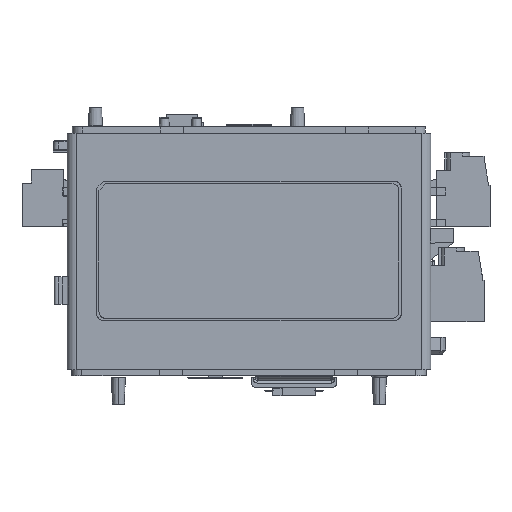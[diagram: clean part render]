
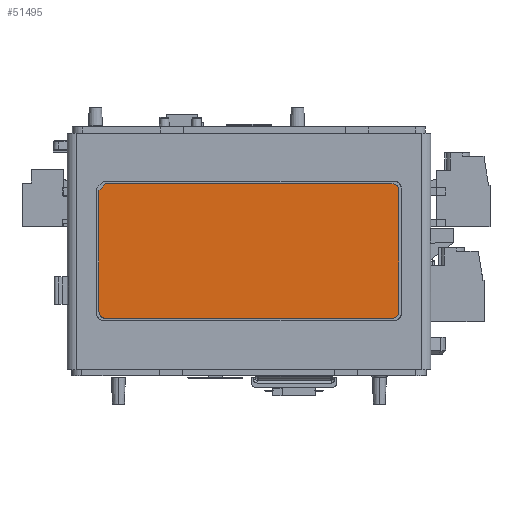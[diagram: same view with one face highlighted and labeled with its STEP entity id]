
A CAD part, left-side view. The second image highlights one B-rep face of the part: STEP entity #51495.
In plain terms, the highlighted planar face has unit normal (-1, 0, 0).
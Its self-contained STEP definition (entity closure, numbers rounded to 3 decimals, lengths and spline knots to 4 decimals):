
#51411=DIRECTION('',(0.,1.,0.));
#51412=VECTOR('',#51411,2.4409);
#51413=CARTESIAN_POINT('',(-1.7638,0.3307,
0.4921));
#51414=LINE('',#51413,#51412);
#51415=CARTESIAN_POINT('',(-1.7638,2.7717,
0.4921));
#51416=CARTESIAN_POINT('',(-1.7638,2.7781,
0.4922));
#51417=CARTESIAN_POINT('',(-1.7638,2.7902,
0.4941));
#51418=CARTESIAN_POINT('',(-1.7638,2.807,
0.5027));
#51419=CARTESIAN_POINT('',(-1.7638,2.8202,
0.5158));
#51420=CARTESIAN_POINT('',(-1.7638,2.8288,
0.5326));
#51421=CARTESIAN_POINT('',(-1.7638,2.8307,
0.5448));
#51422=CARTESIAN_POINT('',(-1.7638,2.8307,
0.5512));
#51424=DIRECTION('',(0.,0.,1.));
#51425=VECTOR('',#51424,1.0315);
#51426=CARTESIAN_POINT('',(-1.7638,2.8307,
0.5512));
#51427=LINE('',#51426,#51425);
#51428=DIRECTION('',(0.,-0.707,0.707));
#51429=VECTOR('',#51428,0.0835);
#51430=CARTESIAN_POINT('',(-1.7638,2.8307,
1.5827));
#51431=LINE('',#51430,#51429);
#51432=DIRECTION('',(0.,-1.,0.));
#51433=VECTOR('',#51432,2.4409);
#51434=CARTESIAN_POINT('',(-1.7638,2.7717,
1.6417));
#51435=LINE('',#51434,#51433);
#51436=CARTESIAN_POINT('',(-1.7638,0.3307,
1.6417));
#51437=CARTESIAN_POINT('',(-1.7638,0.3243,
1.6417));
#51438=CARTESIAN_POINT('',(-1.7638,0.3122,
1.6398));
#51439=CARTESIAN_POINT('',(-1.7638,0.2954,
1.6312));
#51440=CARTESIAN_POINT('',(-1.7638,0.2822,
1.618));
#51441=CARTESIAN_POINT('',(-1.7638,0.2736,
1.6012));
#51442=CARTESIAN_POINT('',(-1.7638,0.2717,
1.5891));
#51443=CARTESIAN_POINT('',(-1.7638,0.2717,
1.5827));
#51445=DIRECTION('',(0.,0.,-1.));
#51446=VECTOR('',#51445,1.0315);
#51447=CARTESIAN_POINT('',(-1.7638,0.2717,
1.5827));
#51448=LINE('',#51447,#51446);
#51449=CARTESIAN_POINT('',(-1.7638,0.2717,
0.5512));
#51450=CARTESIAN_POINT('',(-1.7638,0.2717,
0.5448));
#51451=CARTESIAN_POINT('',(-1.7638,0.2736,
0.5326));
#51452=CARTESIAN_POINT('',(-1.7638,0.2822,
0.5158));
#51453=CARTESIAN_POINT('',(-1.7638,0.2954,
0.5027));
#51454=CARTESIAN_POINT('',(-1.7638,0.3122,
0.4941));
#51455=CARTESIAN_POINT('',(-1.7638,0.3243,
0.4922));
#51456=CARTESIAN_POINT('',(-1.7638,0.3307,
0.4921));
#51458=CARTESIAN_POINT('',(-1.7638,0.3307,
0.4921));
#51459=CARTESIAN_POINT('',(-1.7638,2.7717,
0.4921));
#51460=VERTEX_POINT('',#51458);
#51461=VERTEX_POINT('',#51459);
#51462=VERTEX_POINT('',#51422);
#51463=CARTESIAN_POINT('',(-1.7638,2.8307,
1.5827));
#51464=VERTEX_POINT('',#51463);
#51465=CARTESIAN_POINT('',(-1.7638,2.7717,
1.6417));
#51466=VERTEX_POINT('',#51465);
#51467=CARTESIAN_POINT('',(-1.7638,0.3307,
1.6417));
#51468=VERTEX_POINT('',#51467);
#51469=VERTEX_POINT('',#51443);
#51470=CARTESIAN_POINT('',(-1.7638,0.2717,
0.5512));
#51471=VERTEX_POINT('',#51470);
#51472=CARTESIAN_POINT('',(-1.7638,2.8307,
0.4921));
#51473=DIRECTION('',(-1.,0.,0.));
#51474=DIRECTION('',(0.,-1.,0.));
#51475=AXIS2_PLACEMENT_3D('',#51472,#51473,#51474);
#51476=PLANE('',#51475);
#51478=ORIENTED_EDGE('',*,*,#51477,.T.);
#51480=ORIENTED_EDGE('',*,*,#51479,.T.);
#51482=ORIENTED_EDGE('',*,*,#51481,.T.);
#51484=ORIENTED_EDGE('',*,*,#51483,.T.);
#51486=ORIENTED_EDGE('',*,*,#51485,.T.);
#51488=ORIENTED_EDGE('',*,*,#51487,.T.);
#51490=ORIENTED_EDGE('',*,*,#51489,.T.);
#51492=ORIENTED_EDGE('',*,*,#51491,.T.);
#51493=EDGE_LOOP('',(#51478,#51480,#51482,#51484,#51486,#51488,#51490,#51492));
#51494=FACE_OUTER_BOUND('',#51493,.F.);
#51495=ADVANCED_FACE('',(#51494),#51476,.T.);
#51423=B_SPLINE_CURVE_WITH_KNOTS('',3,(#51415,#51416,#51417,#51418,#51419,
#51420,#51421,#51422),.UNSPECIFIED.,.F.,.F.,(4,1,1,1,1,4),(0.,0.2,0.4,
0.6,0.8,1.),.UNSPECIFIED.);
#51444=B_SPLINE_CURVE_WITH_KNOTS('',3,(#51436,#51437,#51438,#51439,#51440,
#51441,#51442,#51443),.UNSPECIFIED.,.F.,.F.,(4,1,1,1,1,4),(0.,0.2,0.4,
0.6,0.8,1.),.UNSPECIFIED.);
#51457=B_SPLINE_CURVE_WITH_KNOTS('',3,(#51449,#51450,#51451,#51452,#51453,
#51454,#51455,#51456),.UNSPECIFIED.,.F.,.F.,(4,1,1,1,1,4),(0.,0.2,0.4,
0.6,0.8,1.),.UNSPECIFIED.);
#51477=EDGE_CURVE('',#51460,#51461,#51414,.T.);
#51479=EDGE_CURVE('',#51461,#51462,#51423,.T.);
#51481=EDGE_CURVE('',#51462,#51464,#51427,.T.);
#51483=EDGE_CURVE('',#51464,#51466,#51431,.T.);
#51485=EDGE_CURVE('',#51466,#51468,#51435,.T.);
#51487=EDGE_CURVE('',#51468,#51469,#51444,.T.);
#51489=EDGE_CURVE('',#51469,#51471,#51448,.T.);
#51491=EDGE_CURVE('',#51471,#51460,#51457,.T.);
